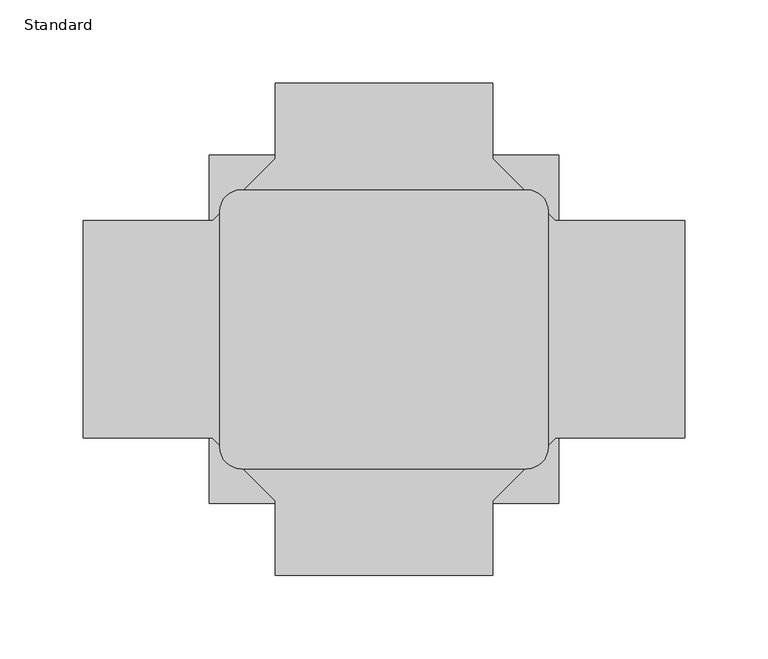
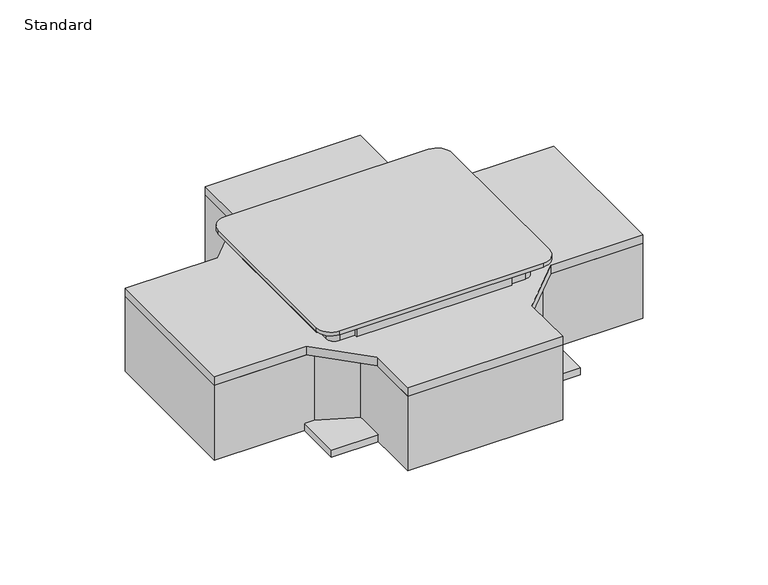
"""IFC4 building model written with IfcOpenShell, lengths in millimetres: proxy geometry, Floor_Box-Resource_Series-Wiremold-RFB4_CI_1 : Standard."""

from ifc_helpers import new_model, si_unit, point, frame, frame_2d, origin, origin_with_axes, place, context, project, spatial, polyline, circle_curve, trimmed, segment, composite_curve, outline, extrude, source, transform, mapped, element, save
from ifc_brep_helpers import plane_surface, revolved_surface, advanced_brep


def standard_76d5c3c3(model_context):
    return source(origin(), model_context, "Body", "SolidModel", [
        extrude(outline(composite_curve([segment(polyline([(-77.978, 70.8053487), (77.978, 70.8053487)]), True, "CONTINUOUS"), segment(trimmed(circle_curve(frame_2d((77.978, 63.1853487)), 7.62), [point((77.978, 70.8053487))], [point((85.598, 63.1853487))], False, "CARTESIAN"), True, "CONTINUOUS"), segment(polyline([(85.598, 63.1853487), (85.598, -63.2685841)]), True, "CONTINUOUS"), segment(trimmed(circle_curve(frame_2d((77.978, -63.2685841)), 7.62), [point((85.598, -63.2685841))], [point((77.978, -70.8885841))], False, "CARTESIAN"), True, "CONTINUOUS"), segment(polyline([(77.978, -70.8885841), (-77.978, -70.8885841)]), True, "CONTINUOUS"), segment(trimmed(circle_curve(frame_2d((-77.978, -63.2685841)), 7.62), [point((-77.978, -70.8885841))], [point((-85.598, -63.2685841))], False, "CARTESIAN"), True, "CONTINUOUS"), segment(polyline([(-85.598, -63.2685841), (-85.598, 63.1853487)]), True, "CONTINUOUS"), segment(trimmed(circle_curve(frame_2d((-77.978, 63.1853487)), 7.62), [point((-85.598, 63.1853487))], [point((-77.978, 70.8053487))], False, "CARTESIAN"), True, "CONTINUOUS")], self_intersect=False)), frame((0.0, 0.0, -15.7683463), z_axis=(0.0, 0.0, 1.0), x_axis=(1.0, 0.0, 0.0)), (0.0, 0.0, 1.0), 15.7683463),
        extrude(outline(composite_curve([segment(trimmed(circle_curve(frame_2d((85.6996, -70.9901841)), 12.7254), [point((98.425, -70.9901841))], [point((85.6996, -83.7155841))], False, "CARTESIAN"), True, "CONTINUOUS"), segment(polyline([(85.6996, -83.7155841), (-85.6996, -83.7155841)]), True, "CONTINUOUS"), segment(trimmed(circle_curve(frame_2d((-85.6996, -70.9901841)), 12.7254), [point((-85.6996, -83.7155841))], [point((-98.425, -70.9901841))], False, "CARTESIAN"), True, "CONTINUOUS"), segment(polyline([(-98.425, -70.9901841), (-98.425, 70.9069487)]), True, "CONTINUOUS"), segment(trimmed(circle_curve(frame_2d((-85.6996, 70.9069487)), 12.7254), [point((-98.425, 70.9069487))], [point((-85.6996, 83.6323487))], False, "CARTESIAN"), True, "CONTINUOUS"), segment(polyline([(-85.6996, 83.6323487), (85.6996, 83.6323487)]), True, "CONTINUOUS"), segment(trimmed(circle_curve(frame_2d((85.6996, 70.9069487)), 12.7254), [point((85.6996, 83.6323487))], [point((98.425, 70.9069487))], False, "CARTESIAN"), True, "CONTINUOUS"), segment(polyline([(98.425, 70.9069487), (98.425, -70.9901841)]), True, "CONTINUOUS")], self_intersect=False)), origin_with_axes(), (0.0, 0.0, 1.0), 3.3062661),
        extrude(outline(polyline([(-65.2459437, 147.6375), (65.2459437, 147.6375), (65.2459437, 102.4261125), (102.5845563, 65.0875), (180.3273, 65.0875), (180.3273, -65.0875), (102.9014437, -65.0875), (65.0875, -102.9014437), (65.0875, -147.6375), (-65.0875, -147.6375), (-65.0875, -102.9014437), (-102.9014437, -65.0875), (-180.3273, -65.0875), (-180.3273, 65.0875), (-102.5845563, 65.0875), (-65.2459437, 102.4261125), (-65.2459437, 147.6375)]), holes=[composite_curve([segment(trimmed(circle_curve(frame_2d((-79.6798, 64.6557)), 5.461), [point((-79.6798, 70.1167))], [point((-85.1408, 64.6557))], True, "CARTESIAN"), True, "CONTINUOUS"), segment(polyline([(-85.1408, 64.6557), (-85.1408, -64.6557)]), True, "CONTINUOUS"), segment(trimmed(circle_curve(frame_2d((-79.6798, -64.6557)), 5.461), [point((-85.1408, -64.6557))], [point((-79.6798, -70.1167))], True, "CARTESIAN"), True, "CONTINUOUS"), segment(polyline([(-79.6798, -70.1167), (79.6798, -70.1167)]), True, "CONTINUOUS"), segment(trimmed(circle_curve(frame_2d((79.6798, -64.6557)), 5.461), [point((79.6798, -70.1167))], [point((85.1408, -64.6557))], True, "CARTESIAN"), True, "CONTINUOUS"), segment(polyline([(85.1408, -64.6557), (85.1408, 64.6557)]), True, "CONTINUOUS"), segment(trimmed(circle_curve(frame_2d((79.6798, 64.6557)), 5.461), [point((85.1408, 64.6557))], [point((79.6798, 70.1167))], True, "CARTESIAN"), True, "CONTINUOUS"), segment(polyline([(79.6798, 70.1167), (-79.6798, 70.1167)]), True, "CONTINUOUS")], self_intersect=False)]), frame((0.0, 0.0, -23.2213463), z_axis=(0.0, 0.0, 1.0), x_axis=(1.0, 0.0, 0.0)), (0.0, 0.0, 1.0), 7.453),
        advanced_brep(
        [(-180.3273, -65.0875, -23.2213463), (-96.363283, -65.0875, -23.2213463), (-65.0875, -78.9854008, -23.2213463), (-65.0875, -147.6375, -23.2213463), (65.0875, -147.6375, -23.2213463), (65.0875, -78.9854008, -23.2213463), (96.363283, -65.0875, -23.2213463), (180.3273, -65.0875, -23.2213463), (180.3273, 65.0875, -23.2213463), (96.363283, 65.0875, -23.2213463), (65.0875, 78.9854008, -23.2213463), (65.0875, 147.6375, -23.2213463), (-65.0875, 147.6375, -23.2213463), (-65.0875, 78.9854008, -23.2213463), (-96.363283, 65.0875, -23.2213463), (-180.3273, 65.0875, -23.2213463), (-79.6798, 70.1167, -23.2213463), (79.6798, 70.1167, -23.2213463), (85.1408, 64.6557, -23.2213463), (85.1408, -64.6557, -23.2213463), (79.6798, -70.1167, -23.2213463), (-79.6798, -70.1167, -23.2213463), (-85.1408, -64.6557, -23.2213463), (-85.1408, 64.6557, -23.2213463), (-180.3273, -65.0875, -89.8963463), (-180.3273, 65.0875, -89.8963463), (-96.363283, 65.0875, -89.8963463), (-65.0875, 78.9854008, -89.8963463), (-65.0875, 147.6375, -89.8963463), (65.0875, 147.6375, -89.8963463), (65.0875, 78.9854008, -89.8963463), (96.363283, 65.0875, -89.8963463), (180.3273, 65.0875, -89.8963463), (180.3273, -65.0875, -89.8963463), (96.363283, -65.0875, -89.8963463), (65.0875, -78.9854008, -89.8963463), (65.0875, -147.6375, -89.8963463), (-65.0875, -147.6375, -89.8963463), (-65.0875, -78.9854008, -89.8963463), (-96.363283, -65.0875, -89.8963463), (-79.6798, 70.1167, -86.7213463), (79.6798, 70.1167, -86.7213463), (85.1408, 64.6557, -86.7213463), (85.1408, -64.6557, -86.7213463), (79.6798, -70.1167, -86.7213463), (-79.6798, -70.1167, -86.7213463), (-85.1408, -64.6557, -86.7213463), (-85.1408, 64.6557, -86.7213463)],
        [
            (0, 1),
            (1, 2),
            (2, 3),
            (3, 4),
            (4, 5),
            (5, 6),
            (6, 7),
            (7, 8),
            (8, 9),
            (9, 10),
            (10, 11),
            (11, 12),
            (12, 13),
            (13, 14),
            (14, 15),
            (15, 0),
            (16, 17),
            (17, 18, circle_curve(frame((79.6798, 64.6557, -23.2213463), z_axis=(0.0, 0.0, -1.0), x_axis=(1.0, 0.0, 0.0)), 5.461)),
            (18, 19),
            (19, 20, circle_curve(frame((79.6798, -64.6557, -23.2213463), z_axis=(0.0, 0.0, -1.0), x_axis=(1.0, 0.0, 0.0)), 5.461)),
            (20, 21),
            (21, 22, circle_curve(frame((-79.6798, -64.6557, -23.2213463), z_axis=(0.0, 0.0, -1.0), x_axis=(1.0, 0.0, 0.0)), 5.461)),
            (22, 23),
            (23, 16, circle_curve(frame((-79.6798, 64.6557, -23.2213463), z_axis=(0.0, 0.0, -1.0), x_axis=(1.0, 0.0, 0.0)), 5.461)),
            (24, 25),
            (25, 26),
            (26, 27),
            (27, 28),
            (28, 29),
            (29, 30),
            (30, 31),
            (31, 32),
            (32, 33),
            (33, 34),
            (34, 35),
            (35, 36),
            (36, 37),
            (37, 38),
            (38, 39),
            (39, 24),
            (15, 25),
            (24, 0),
            (39, 1),
            (2, 38),
            (37, 3),
            (36, 4),
            (7, 33),
            (32, 8),
            (11, 29),
            (28, 12),
            (16, 40),
            (40, 41),
            (41, 17),
            (41, 42, circle_curve(frame((79.6798, 64.6557, -86.7213463), z_axis=(0.0, 0.0, -1.0), x_axis=(1.0, 0.0, 0.0)), 5.461)),
            (42, 18),
            (42, 43),
            (43, 19),
            (43, 44, circle_curve(frame((79.6798, -64.6557, -86.7213463), z_axis=(0.0, 0.0, -1.0), x_axis=(1.0, 0.0, 0.0)), 5.461)),
            (44, 20),
            (44, 45),
            (45, 21),
            (45, 46, circle_curve(frame((-79.6798, -64.6557, -86.7213463), z_axis=(0.0, 0.0, -1.0), x_axis=(1.0, 0.0, 0.0)), 5.461)),
            (46, 22),
            (46, 47),
            (47, 23),
            (47, 40, circle_curve(frame((-79.6798, 64.6557, -86.7213463), z_axis=(0.0, 0.0, -1.0), x_axis=(1.0, 0.0, 0.0)), 5.461)),
            (35, 5),
            (6, 34),
            (27, 13),
            (14, 26),
            (31, 9),
            (10, 30),
        ],
        [
            plane_surface(frame((-172.4025, -65.0875, -23.2213463), z_axis=(0.0, 0.0, 1.0), x_axis=(1.0, 0.0, 0.0))),
            plane_surface(frame((-172.4025, -65.0875, -89.8963463), z_axis=(0.0, 0.0, -1.0), x_axis=(-1.0, 0.0, 0.0))),
            plane_surface(frame((-180.3273, 65.0875, -23.2213463), z_axis=(-1.0, 0.0, 0.0), x_axis=(0.0, 0.0, -1.0))),
            plane_surface(frame((-180.3273, -65.0875, -23.2213463), z_axis=(0.0, -1.0, 0.0), x_axis=(0.0, 0.0, -1.0))),
            plane_surface(frame((-65.0875, -78.9854008, -23.2213463), z_axis=(-1.0, 0.0, 0.0), x_axis=(0.0, 0.0, -1.0))),
            plane_surface(frame((-65.0875, -147.6375, -23.2213463), z_axis=(0.0, -1.0, 0.0), x_axis=(0.0, 0.0, -1.0))),
            plane_surface(frame((180.3273, -65.0875, -23.2213463), z_axis=(1.0, 0.0, 0.0), x_axis=(0.0, 0.0, -1.0))),
            plane_surface(frame((65.0875, 147.6375, -23.2213463), z_axis=(0.0, 1.0, 0.0), x_axis=(0.0, 0.0, -1.0))),
            plane_surface(frame((-79.6798, 70.1167, -23.2213463), z_axis=(0.0, -1.0, 0.0), x_axis=(0.0, 0.0, -1.0))),
            revolved_surface(polyline([(85.1408, 64.6557, -86.7213463), (85.1408, 64.6557, -23.2213463)]), (79.6798, 64.6557, 0.0), (0.0, 0.0, -1.0)),
            plane_surface(frame((85.1408, 64.6557, -23.2213463), z_axis=(-1.0, 0.0, 0.0), x_axis=(0.0, 0.0, -1.0))),
            revolved_surface(polyline([(85.1408, -64.6557, -86.7213463), (85.1408, -64.6557, -23.2213463)]), (79.6798, -64.6557, 0.0), (0.0, 0.0, -1.0)),
            plane_surface(frame((79.6798, -70.1167, -23.2213463), z_axis=(0.0, 1.0, 0.0), x_axis=(0.0, 0.0, -1.0))),
            revolved_surface(polyline([(-74.2188, -64.6557, -86.7213463), (-74.2188, -64.6557, -23.2213463)]), (-79.6798, -64.6557, 0.0), (0.0, 0.0, -1.0)),
            plane_surface(frame((-85.1408, -64.6557, -23.2213463), z_axis=(1.0, 0.0, 0.0), x_axis=(0.0, 0.0, -1.0))),
            revolved_surface(polyline([(-74.2188, 64.6557, -86.7213463), (-74.2188, 64.6557, -23.2213463)]), (-79.6798, 64.6557, 0.0), (0.0, 0.0, -1.0)),
            plane_surface(frame((-85.1408, 64.6557, -86.7213463), z_axis=(0.0, 0.0, 1.0), x_axis=(0.0, -1.0, 0.0))),
            plane_surface(frame((65.0875, -147.6375, -23.2213463), z_axis=(1.0, 0.0, 0.0), x_axis=(0.0, 0.0, -1.0))),
            plane_surface(frame((96.363283, -65.0875, -23.2213463), z_axis=(0.0, -1.0, 0.0), x_axis=(0.0, 0.0, -1.0))),
            plane_surface(frame((-65.0875, 147.6375, -23.2213463), z_axis=(-1.0, 0.0, 0.0), x_axis=(0.0, 0.0, -1.0))),
            plane_surface(frame((-96.363283, 65.0875, -23.2213463), z_axis=(0.0, 1.0, 0.0), x_axis=(0.0, 0.0, -1.0))),
            plane_surface(frame((180.3273, 65.0875, -23.2213463), z_axis=(0.0, 1.0, 0.0), x_axis=(0.0, 0.0, -1.0))),
            plane_surface(frame((65.0875, 78.9854008, -23.2213463), z_axis=(1.0, 0.0, 0.0), x_axis=(0.0, 0.0, -1.0))),
            plane_surface(frame((-96.363283, -65.0875, -23.2213463), z_axis=(-0.4060787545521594, -0.9138380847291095, 0.0), x_axis=(0.0, 0.0, -1.0))),
            plane_surface(frame((65.0875, -78.9854008, -23.2213463), z_axis=(0.4060787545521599, -0.9138380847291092, 0.0), x_axis=(0.0, 0.0, -1.0))),
            plane_surface(frame((-65.0875, 78.9854008, -23.2213463), z_axis=(-0.4060787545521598, 0.9138380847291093, 0.0), x_axis=(0.0, 0.0, -1.0))),
            plane_surface(frame((96.363283, 65.0875, -23.2213463), z_axis=(0.40607875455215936, 0.9138380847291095, 0.0), x_axis=(0.0, 0.0, -1.0))),
        ],
        [
            (0, [[1, 2, 3, 4, 5, 6, 7, 8, 9, 10, 11, 12, 13, 14, 15, 16], [17, 18, 19, 20, 21, 22, 23, 24]]),
            (1, [[25, 26, 27, 28, 29, 30, 31, 32, 33, 34, 35, 36, 37, 38, 39, 40]]),
            (2, [[-16, 41, -25, 42]]),
            (3, [[-1, -42, -40, 43]]),
            (4, [[-3, 44, -38, 45]]),
            (5, [[-4, -45, -37, 46]]),
            (6, [[-8, 47, -33, 48]]),
            (7, [[-12, 49, -29, 50]]),
            (8, [[-17, 51, 52, 53]]),
            (9, [[-18, -53, 54, 55]]),
            (10, [[-19, -55, 56, 57]]),
            (11, [[-20, -57, 58, 59]]),
            (12, [[-21, -59, 60, 61]]),
            (13, [[-22, -61, 62, 63]]),
            (14, [[-23, -63, 64, 65]]),
            (15, [[-24, -65, 66, -51]]),
            (16, [[-52, -66, -64, -62, -60, -58, -56, -54]]),
            (17, [[-5, -46, -36, 67]]),
            (18, [[-7, 68, -34, -47]]),
            (19, [[-13, -50, -28, 69]]),
            (20, [[-15, 70, -26, -41]]),
            (21, [[-9, -48, -32, 71]]),
            (22, [[-11, 72, -30, -49]]),
            (23, [[-2, -43, -39, -44]]),
            (24, [[-6, -67, -35, -68]]),
            (25, [[-14, -69, -27, -70]]),
            (26, [[-10, -71, -31, -72]]),
        ],
    ),
        extrude(outline(polyline([(-104.775, 104.6165563), (-65.0875, 104.6165563), (-65.0875, 78.9854008), (-96.363283, 65.0875), (-104.775, 65.0875), (-104.775, 104.6165563)])), frame((0.0, 0.0, -89.8963463), z_axis=(0.0, 0.0, 1.0), x_axis=(1.0, 0.0, 0.0)), (0.0, 0.0, 1.0), 6.375),
        extrude(outline(polyline([(104.775, 104.6165563), (104.775, 65.0875), (96.363283, 65.0875), (65.0875, 78.9854008), (65.0875, 104.6165563), (104.775, 104.6165563)])), frame((0.0, 0.0, -89.8963463), z_axis=(0.0, 0.0, 1.0), x_axis=(1.0, 0.0, 0.0)), (0.0, 0.0, 1.0), 6.375),
        extrude(outline(polyline([(-104.775, -104.6165563), (-104.775, -65.0875), (-96.363283, -65.0875), (-65.0875, -78.9854008), (-65.0875, -104.6165563), (-104.775, -104.6165563)])), frame((0.0, 0.0, -89.8963463), z_axis=(0.0, 0.0, 1.0), x_axis=(1.0, 0.0, 0.0)), (0.0, 0.0, 1.0), 6.375),
        extrude(outline(polyline([(104.775, -104.6165563), (65.0875, -104.6165563), (65.0875, -78.9854008), (96.363283, -65.0875), (104.775, -65.0875), (104.775, -104.6165563)])), frame((0.0, 0.0, -89.8963463), z_axis=(0.0, 0.0, 1.0), x_axis=(1.0, 0.0, 0.0)), (0.0, 0.0, 1.0), 6.375),
        extrude(outline(polyline([(-88.0147875, -54.0064437), (-88.0147875, 53.6895563), (-86.2965, 53.6895563), (-86.2965, -54.0064437), (-88.0147875, -54.0064437)])), frame((0.0, 0.0, -15.7683463), z_axis=(0.0, 0.0, 1.0), x_axis=(1.0, 0.0, 0.0)), (0.0, 0.0, 1.0), 13.2517173),
        extrude(outline(polyline([(88.0745, -54.0064437), (86.2965, -54.0064437), (86.2965, 53.6895563), (88.0745, 53.6895563), (88.0745, -54.0064437)])), frame((0.0, 0.0, -15.7683463), z_axis=(0.0, 0.0, 1.0), x_axis=(1.0, 0.0, 0.0)), (0.0, 0.0, 1.0), 13.2517173),
        extrude(outline(polyline([(-65.405, 71.0885563), (-65.405, 72.8665563), (65.405, 72.8665563), (65.405, 71.0885563), (-65.405, 71.0885563)])), frame((0.0, 0.0, -15.7683463), z_axis=(0.0, 0.0, 1.0), x_axis=(1.0, 0.0, 0.0)), (0.0, 0.0, 1.0), 13.2517173),
        extrude(outline(polyline([(-65.405, -71.4375), (65.405, -71.4375), (65.405, -73.2155), (-65.405, -73.2155), (-65.405, -71.4375)])), frame((0.0, 0.0, -15.7683463), z_axis=(0.0, 0.0, 1.0), x_axis=(1.0, 0.0, 0.0)), (0.0, 0.0, 1.0), 13.2517173),
    ])


if __name__ == "__main__":
    model = new_model("IFC4")
    model_context = context("Model", 3, world=origin())
    ifc_project = project(units=[si_unit("LENGTHUNIT", "METRE", prefix="MILLI")], contexts=[model_context])
    site = spatial("IfcSite", under=ifc_project)
    building = spatial("IfcBuilding", under=site)
    placement = place(None, origin())
    standard_shape = standard_76d5c3c3(model_context)
    element("IfcBuildingElementProxy", 1, Name="Floor_Box-Resource_Series-Wiremold-RFB4_CI_1 : Standard", ObjectType="Floor_Box-Resource_Series-Wiremold-RFB4_CI_1 : Standard", at=placement, inside=building, context=model_context, shape_type="MappedRepresentation", body=[
        mapped(standard_shape, transform((0.0, 0.0, 0.0), x_axis=(1.0, 0.0, 0.0), y_axis=(0.0, 1.0, 0.0), z_axis=(0.0, 0.0, 1.0))),
    ])
    save(model, "model.ifc")
